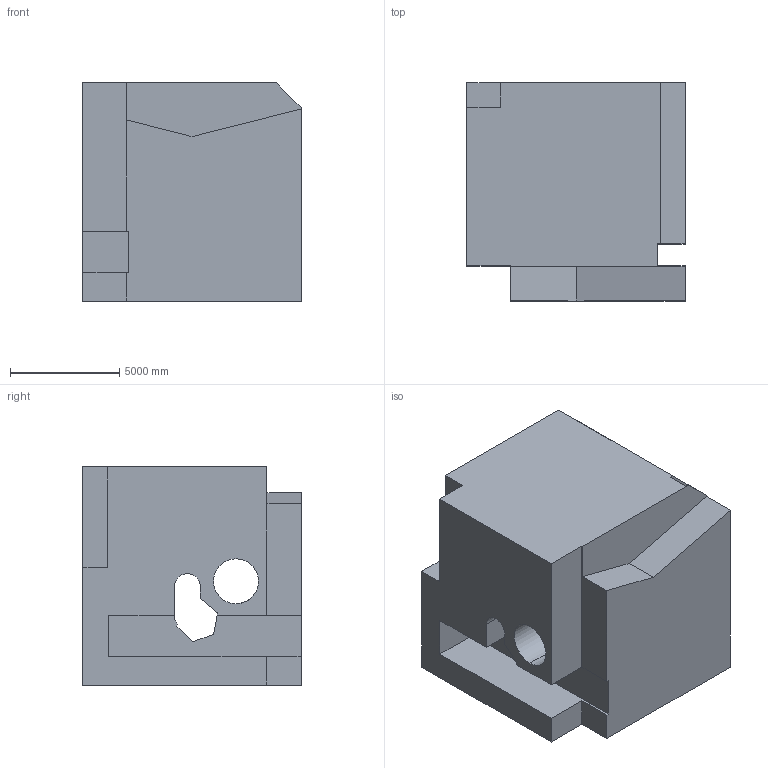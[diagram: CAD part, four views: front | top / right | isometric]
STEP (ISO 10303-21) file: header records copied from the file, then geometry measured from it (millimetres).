
FILE_DESCRIPTION (( 'STEP AP203' ), '1' );
FILE_NAME ('1934.STEP', '2022-08-23T09:39:40', ( 'user' ), ( '' ), 'SwSTEP 2.0', 'SolidWorks 2021', '' );
FILE_SCHEMA (( 'CONFIG_CONTROL_DESIGN' ));
Length unit declared in the file: centimetre
Products named in the file (1): 1934
Bounding box: 10000 x 10000 x 10000 mm (x, y, z)
Volume: 811804436937.2 mm3; surface area: 747607812.6 mm2
Topology: 1 solids, 1 shells, 42 faces, 126 edges, 84 vertices
Faces by surface type: plane 37, cylinder 5
Entity records: 1487 total; most frequent: CARTESIAN_POINT 253, ORIENTED_EDGE 252, DIRECTION 224, EDGE_CURVE 126, LINE 114, VECTOR 114, VERTEX_POINT 84, AXIS2_PLACEMENT_3D 55
